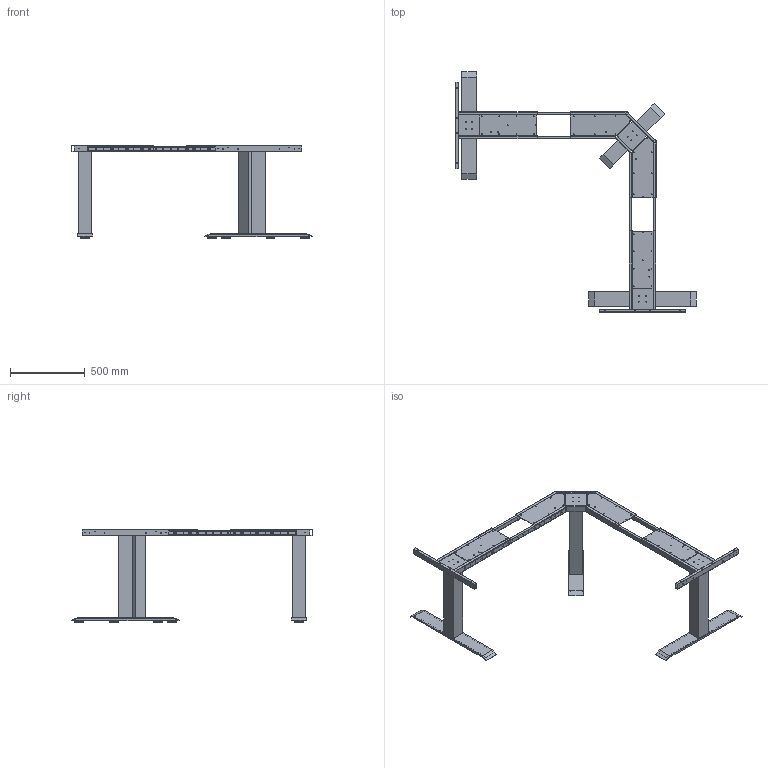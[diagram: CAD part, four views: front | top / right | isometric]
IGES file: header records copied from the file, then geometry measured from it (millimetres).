
Start section: Data from Parasolid IGES Translator 15.0.47, Copyright(c) 2006 Siemens P LM Software. All Rights Reserved.
Global section: file name: 9193255.igs; native system:  By UGS Corp.; preprocessor: XPlus GENERIC/IGES 3.0; author: Noname; organization: Noname; date: 20160706.173255; units: millimetre
Bounding box: 1610 x 1610 x 620.5 mm (x, y, z)
Surface area: 3496156 mm2 (no closed solid volume)
Topology: 0 solids, 0 shells, 549 faces, 3026 edges, 2570 vertices
Faces by surface type: extrusion 306, revolution 243
